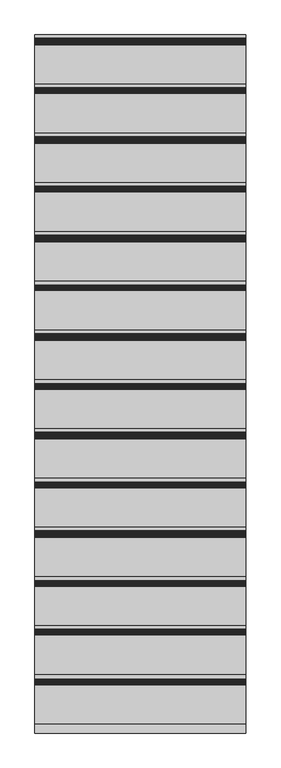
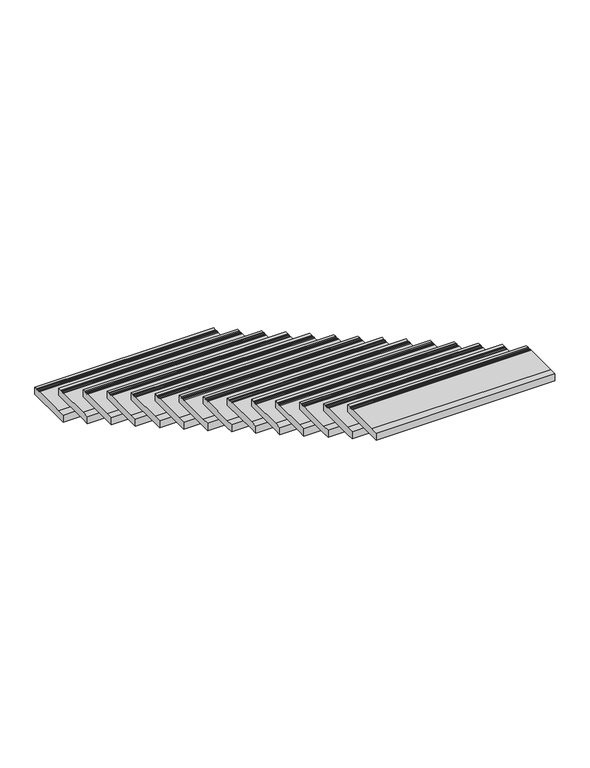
"""IFC4 building model written with IfcOpenShell, lengths in millimetres: stair flight geometry, Giron 30 mm nez de marche 20 mm."""

import ifcopenshell
import ifcopenshell.guid

model = None  # the IFC model being written
_history = None  # IfcOwnerHistory: only IFC2X3 demands one
_inside = {}  # id of a spatial element -> (the spatial element, [elements in it])
_under = {}  # id of a project, library or spatial element -> (it, [spatial elements below it])
_declared = {}  # id of a project -> (the project, [libraries it declares])
_typed = {}  # id of a type object -> (the type object, [elements of that type])
_made_of = {}  # id of a material, layer set ... -> (it, [elements and type objects made of it])


def new_model(schema):
    """Start an empty IFC model of exactly this schema.

    Asked for "IFC4X3", IfcOpenShell would pick the latest addendum, in which some entities
    have other attributes; the version numbers below select the first issue.
    IFC2X3 requires an IfcOwnerHistory on every rooted entity: one is made here for all.
    """
    global model, _history
    if schema == "IFC4X3":
        model = ifcopenshell.file(schema_version=(4, 3, 0, 0))
    else:
        model = ifcopenshell.file(schema=schema)
    _inside.clear()
    _under.clear()
    _declared.clear()
    _typed.clear()
    _made_of.clear()
    _history = None
    if model.schema == "IFC2X3":
        org = make("IfcOrganization", Name="unknown")
        user = make(
            "IfcPersonAndOrganization",
            ThePerson=make("IfcPerson", FamilyName="unknown"),
            TheOrganization=org,
        )
        app = make(
            "IfcApplication",
            ApplicationDeveloper=org,
            Version="unknown",
            ApplicationFullName="unknown",
            ApplicationIdentifier="unknown",
        )
        _history = make(
            "IfcOwnerHistory",
            OwningUser=user,
            OwningApplication=app,
            ChangeAction="ADDED",
            CreationDate=0,
        )
    return model


def make(cls, **values):
    """One entity of the class cls with the attributes given. An attribute that is None is left unset."""
    return model.create_entity(
        cls, **{name: value for name, value in values.items() if value is not None}
    )


def rooted(cls, **values):
    """An entity with a GlobalId (a new one), such as an element, a storey or a relation."""
    return make(cls, GlobalId=ifcopenshell.guid.new(), OwnerHistory=_history, **values)


def si_unit(unit_type, name, prefix=None):
    """IfcSIUnit, for example si_unit("LENGTHUNIT", "METRE", prefix="MILLI")."""
    return make("IfcSIUnit", UnitType=unit_type, Prefix=prefix, Name=name)


def assignment(units):
    """IfcUnitAssignment: the units of a project."""
    return None if units is None else make("IfcUnitAssignment", Units=units)


def point(xyz):
    """IfcCartesianPoint."""
    return None if xyz is None else make("IfcCartesianPoint", Coordinates=xyz)


def direction(xyz):
    """IfcDirection."""
    return None if xyz is None else make("IfcDirection", DirectionRatios=xyz)


def frame(location, z_axis=None, x_axis=None):
    """IfcAxis2Placement3D, a coordinate frame: its origin and axes. An axis left out is left unset."""
    return make(
        "IfcAxis2Placement3D",
        Location=point(location),
        Axis=direction(z_axis),
        RefDirection=direction(x_axis),
    )


def origin():
    """The frame at (0, 0, 0) with its axes left unset."""
    return frame((0.0, 0.0, 0.0))


def place(relative_to, where):
    """IfcLocalPlacement: puts the frame where relative to a parent placement (None: the world)."""
    return make(
        "IfcLocalPlacement", PlacementRelTo=relative_to, RelativePlacement=where
    )


def context(
    kind, dimensions, precision=None, world=None, true_north=None, identifier=None
):
    """IfcGeometricRepresentationContext, for example the 3D "Model" context."""
    return make(
        "IfcGeometricRepresentationContext",
        ContextIdentifier=identifier,
        ContextType=kind,
        CoordinateSpaceDimension=dimensions,
        Precision=precision,
        WorldCoordinateSystem=world,
        TrueNorth=true_north,
    )


def project(units=None, contexts=None):
    """IfcProject with its units and contexts."""
    return rooted(
        "IfcProject",
        Name="project",
        RepresentationContexts=contexts,
        UnitsInContext=assignment(units),
    )


def spatial(cls, under=None, at=None, **own):
    """A site, building, storey or space (cls), placed at a placement, below another one or the project."""
    s = rooted(cls, ObjectPlacement=at, **own)
    if under is not None:
        _under.setdefault(under.id(), (under, []))[1].append(s)
    return s


def polyline(points):
    """IfcPolyline through the points."""
    return make("IfcPolyline", Points=[point(p) for p in points])


def outline(outer, holes=None, kind="AREA"):
    """IfcArbitraryClosedProfileDef: a profile drawn as a closed curve; with holes, ...WithVoids."""
    if holes is None:
        return make("IfcArbitraryClosedProfileDef", ProfileType=kind, OuterCurve=outer)
    return make(
        "IfcArbitraryProfileDefWithVoids",
        ProfileType=kind,
        OuterCurve=outer,
        InnerCurves=holes,
    )


def extrude(swept, where, along, depth):
    """IfcExtrudedAreaSolid: the profile swept, set in the frame where, extruded along a direction by depth."""
    return make(
        "IfcExtrudedAreaSolid",
        SweptArea=swept,
        Position=where,
        ExtrudedDirection=direction(along),
        Depth=depth,
    )


def shape(context_of_items, identifier, shape_type, items):
    """IfcShapeRepresentation: the items that make up one representation, for example the "Body"."""
    return make(
        "IfcShapeRepresentation",
        ContextOfItems=context_of_items,
        RepresentationIdentifier=identifier,
        RepresentationType=shape_type,
        Items=items,
    )


def source(mapping_origin, context_of_items, identifier, shape_type, items):
    """IfcRepresentationMap: a shape defined once, which mapped items show again and again."""
    return make(
        "IfcRepresentationMap",
        MappingOrigin=mapping_origin,
        MappedRepresentation=shape(context_of_items, identifier, shape_type, items),
    )


def transform(
    local_origin,
    x_axis=None,
    y_axis=None,
    z_axis=None,
    scale=None,
    scale2=None,
    scale3=None,
    uniform=True,
):
    """IfcCartesianTransformationOperator3D, or its non-uniform kind. x_axis, y_axis, z_axis: its Axis1, 2, 3."""
    if uniform:
        return make(
            "IfcCartesianTransformationOperator3D",
            Axis1=direction(x_axis),
            Axis2=direction(y_axis),
            LocalOrigin=point(local_origin),
            Scale=scale,
            Axis3=direction(z_axis),
        )
    return make(
        "IfcCartesianTransformationOperator3DnonUniform",
        Axis1=direction(x_axis),
        Axis2=direction(y_axis),
        LocalOrigin=point(local_origin),
        Scale=scale,
        Axis3=direction(z_axis),
        Scale2=scale2,
        Scale3=scale3,
    )


def mapped(mapping_source, mapping_target):
    """IfcMappedItem: shows the shape of a source again, moved by a transform."""
    return make(
        "IfcMappedItem", MappingSource=mapping_source, MappingTarget=mapping_target
    )


def made_of(thing, what):
    """Note that an element or type object is made of a material, layer set ...; save() writes the relation."""
    if what is not None:
        _made_of.setdefault(what.id(), (what, []))[1].append(thing)
    return thing


def element(
    cls,
    number,
    at=None,
    inside=None,
    cuts=None,
    type_object=None,
    material=None,
    context=None,
    identifier="Body",
    shape_type=None,
    held_by="IfcProductDefinitionShape",
    body=None,
    shapes=None,
    **own,
):
    """One element of the class cls, such as IfcWall. Its Tag is "e" and its number.

    at: its placement. inside: the storey or other place that contains it. cuts: it is an
    opening in that element (IfcRelVoidsElement). A single representation is given by context,
    identifier, shape_type and body (its items); several are given by shapes. held_by: the class
    of the entity that holds the representations. save() writes the other relations.
    """
    e = rooted(cls, Tag="e%d" % number, ObjectPlacement=at, **own)
    if body is not None:
        shapes = [shape(context, identifier, shape_type, body)]
    if shapes is not None:
        e.Representation = make(held_by, Representations=shapes)
    if inside is not None:
        _inside.setdefault(inside.id(), (inside, []))[1].append(e)
    if cuts is not None:
        rooted(
            "IfcRelVoidsElement", RelatingBuildingElement=cuts, RelatedOpeningElement=e
        )
    if type_object is not None:
        _typed.setdefault(type_object.id(), (type_object, []))[1].append(e)
    return made_of(e, material)


def aggregate(whole, parts):
    """IfcRelAggregates: a whole, such as a stair, and the parts it consists of."""
    return rooted("IfcRelAggregates", RelatingObject=whole, RelatedObjects=parts)


def save(model, path):
    """Write the relations noted so far, then the file.

    IfcRelAggregates (storeys below a building ...), IfcRelContainedInSpatialStructure (elements
    in a storey), IfcRelDefinesByType, IfcRelAssociatesMaterial and IfcRelDeclares: one each for
    every whole, place, type object, material and project.
    """
    for whole, parts in _under.values():
        aggregate(whole, parts)
    for where, things in _inside.values():
        rooted(
            "IfcRelContainedInSpatialStructure",
            RelatedElements=things,
            RelatingStructure=where,
        )
    for kind, things in _typed.values():
        rooted("IfcRelDefinesByType", RelatedObjects=things, RelatingType=kind)
    for what, things in _made_of.values():
        rooted("IfcRelAssociatesMaterial", RelatedObjects=things, RelatingMaterial=what)
    for by, libraries in _declared.values():
        rooted("IfcRelDeclares", RelatingContext=by, RelatedDefinitions=libraries)
    model.write(path)


def stair_flight_b019b1db(model_context):
    return source(origin(), model_context, "Body", "SweptSolid", [
        extrude(outline(polyline([(5220.0711666, 80.0), (5223.6067006, 76.4644661), (5227.1422345, 80.0), (5230.6777684, 76.4644661), (5234.2133023, 80.0), (5237.7488362, 76.4644661), (5241.2843701, 80.0), (5244.819904, 76.4644661), (5248.3554379, 80.0), (5251.8909718, 76.4644661), (5255.4265057, 80.0), (5275.4265057, 80.0), (5275.4265057, 30.0), (4995.4265057, 30.0), (4945.4265057, 30.0), (4945.4265057, 80.0), (4995.4265057, 80.0), (5220.0711666, 80.0)])), frame((9143.2466393, 0.0, 0.0), z_axis=(1.0, 0.0, 0.0), x_axis=(0.0, 1.0, 0.0)), (0.0, 0.0, 1.0), 1200.0),
        extrude(outline(polyline([(4940.0711666, 240.0), (4943.6067006, 236.4644661), (4947.1422345, 240.0), (4950.6777684, 236.4644661), (4954.2133023, 240.0), (4957.7488362, 236.4644661), (4961.2843701, 240.0), (4964.819904, 236.4644661), (4968.3554379, 240.0), (4971.8909718, 236.4644661), (4975.4265057, 240.0), (4995.4265057, 240.0), (4995.4265057, 190.0), (4715.4265057, 190.0), (4665.4265057, 190.0), (4665.4265057, 240.0), (4715.4265057, 240.0), (4940.0711666, 240.0)])), frame((9143.2466393, 0.0, 0.0), z_axis=(1.0, 0.0, 0.0), x_axis=(0.0, 1.0, 0.0)), (0.0, 0.0, 1.0), 1200.0),
        extrude(outline(polyline([(4660.0711666, 400.0), (4663.6067006, 396.4644661), (4667.1422345, 400.0), (4670.6777684, 396.4644661), (4674.2133023, 400.0), (4677.7488362, 396.4644661), (4681.2843701, 400.0), (4684.819904, 396.4644661), (4688.3554379, 400.0), (4691.8909718, 396.4644661), (4695.4265057, 400.0), (4715.4265057, 400.0), (4715.4265057, 350.0), (4435.4265057, 350.0), (4385.4265057, 350.0), (4385.4265057, 400.0), (4435.4265057, 400.0), (4660.0711666, 400.0)])), frame((9143.2466393, 0.0, 0.0), z_axis=(1.0, 0.0, 0.0), x_axis=(0.0, 1.0, 0.0)), (0.0, 0.0, 1.0), 1200.0),
        extrude(outline(polyline([(4380.0711666, 560.0), (4383.6067006, 556.4644661), (4387.1422345, 560.0), (4390.6777684, 556.4644661), (4394.2133023, 560.0), (4397.7488362, 556.4644661), (4401.2843701, 560.0), (4404.819904, 556.4644661), (4408.3554379, 560.0), (4411.8909718, 556.4644661), (4415.4265057, 560.0), (4435.4265057, 560.0), (4435.4265057, 510.0), (4155.4265057, 510.0), (4105.4265057, 510.0), (4105.4265057, 560.0), (4155.4265057, 560.0), (4380.0711666, 560.0)])), frame((9143.2466393, 0.0, 0.0), z_axis=(1.0, 0.0, 0.0), x_axis=(0.0, 1.0, 0.0)), (0.0, 0.0, 1.0), 1200.0),
        extrude(outline(polyline([(4100.0711666, 720.0), (4103.6067006, 716.4644661), (4107.1422345, 720.0), (4110.6777684, 716.4644661), (4114.2133023, 720.0), (4117.7488362, 716.4644661), (4121.2843701, 720.0), (4124.819904, 716.4644661), (4128.3554379, 720.0), (4131.8909718, 716.4644661), (4135.4265057, 720.0), (4155.4265057, 720.0), (4155.4265057, 670.0), (3875.4265057, 670.0), (3825.4265057, 670.0), (3825.4265057, 720.0), (3875.4265057, 720.0), (4100.0711666, 720.0)])), frame((9143.2466393, 0.0, 0.0), z_axis=(1.0, 0.0, 0.0), x_axis=(0.0, 1.0, 0.0)), (0.0, 0.0, 1.0), 1200.0),
        extrude(outline(polyline([(3820.0711666, 880.0), (3823.6067006, 876.4644661), (3827.1422345, 880.0), (3830.6777684, 876.4644661), (3834.2133023, 880.0), (3837.7488362, 876.4644661), (3841.2843701, 880.0), (3844.819904, 876.4644661), (3848.3554379, 880.0), (3851.8909718, 876.4644661), (3855.4265057, 880.0), (3875.4265057, 880.0), (3875.4265057, 830.0), (3595.4265057, 830.0), (3545.4265057, 830.0), (3545.4265057, 880.0), (3595.4265057, 880.0), (3820.0711666, 880.0)])), frame((9143.2466393, 0.0, 0.0), z_axis=(1.0, 0.0, 0.0), x_axis=(0.0, 1.0, 0.0)), (0.0, 0.0, 1.0), 1200.0),
        extrude(outline(polyline([(3540.0711666, 1040.0), (3543.6067006, 1036.4644661), (3547.1422345, 1040.0), (3550.6777684, 1036.4644661), (3554.2133023, 1040.0), (3557.7488362, 1036.4644661), (3561.2843701, 1040.0), (3564.819904, 1036.4644661), (3568.3554379, 1040.0), (3571.8909718, 1036.4644661), (3575.4265057, 1040.0), (3595.4265057, 1040.0), (3595.4265057, 990.0), (3315.4265057, 990.0), (3265.4265057, 990.0), (3265.4265057, 1040.0), (3315.4265057, 1040.0), (3540.0711666, 1040.0)])), frame((9143.2466393, 0.0, 0.0), z_axis=(1.0, 0.0, 0.0), x_axis=(0.0, 1.0, 0.0)), (0.0, 0.0, 1.0), 1200.0),
        extrude(outline(polyline([(3260.0711666, 1200.0), (3263.6067006, 1196.4644661), (3267.1422345, 1200.0), (3270.6777684, 1196.4644661), (3274.2133023, 1200.0), (3277.7488362, 1196.4644661), (3281.2843701, 1200.0), (3284.819904, 1196.4644661), (3288.3554379, 1200.0), (3291.8909718, 1196.4644661), (3295.4265057, 1200.0), (3315.4265057, 1200.0), (3315.4265057, 1150.0), (3035.4265057, 1150.0), (2985.4265057, 1150.0), (2985.4265057, 1200.0), (3035.4265057, 1200.0), (3260.0711666, 1200.0)])), frame((9143.2466393, 0.0, 0.0), z_axis=(1.0, 0.0, 0.0), x_axis=(0.0, 1.0, 0.0)), (0.0, 0.0, 1.0), 1200.0),
        extrude(outline(polyline([(2980.0711666, 1360.0), (2983.6067006, 1356.4644661), (2987.1422345, 1360.0), (2990.6777684, 1356.4644661), (2994.2133023, 1360.0), (2997.7488362, 1356.4644661), (3001.2843701, 1360.0), (3004.819904, 1356.4644661), (3008.3554379, 1360.0), (3011.8909718, 1356.4644661), (3015.4265057, 1360.0), (3035.4265057, 1360.0), (3035.4265057, 1310.0), (2755.4265057, 1310.0), (2705.4265057, 1310.0), (2705.4265057, 1360.0), (2755.4265057, 1360.0), (2980.0711666, 1360.0)])), frame((9143.2466393, 0.0, 0.0), z_axis=(1.0, 0.0, 0.0), x_axis=(0.0, 1.0, 0.0)), (0.0, 0.0, 1.0), 1200.0),
        extrude(outline(polyline([(2700.0711666, 1520.0), (2703.6067006, 1516.4644661), (2707.1422345, 1520.0), (2710.6777684, 1516.4644661), (2714.2133023, 1520.0), (2717.7488362, 1516.4644661), (2721.2843701, 1520.0), (2724.819904, 1516.4644661), (2728.3554379, 1520.0), (2731.8909718, 1516.4644661), (2735.4265057, 1520.0), (2755.4265057, 1520.0), (2755.4265057, 1470.0), (2475.4265057, 1470.0), (2425.4265057, 1470.0), (2425.4265057, 1520.0), (2475.4265057, 1520.0), (2700.0711666, 1520.0)])), frame((9143.2466393, 0.0, 0.0), z_axis=(1.0, 0.0, 0.0), x_axis=(0.0, 1.0, 0.0)), (0.0, 0.0, 1.0), 1200.0),
        extrude(outline(polyline([(2420.0711666, 1680.0), (2423.6067006, 1676.4644661), (2427.1422345, 1680.0), (2430.6777684, 1676.4644661), (2434.2133023, 1680.0), (2437.7488362, 1676.4644661), (2441.2843701, 1680.0), (2444.819904, 1676.4644661), (2448.3554379, 1680.0), (2451.8909718, 1676.4644661), (2455.4265057, 1680.0), (2475.4265057, 1680.0), (2475.4265057, 1630.0), (2195.4265057, 1630.0), (2145.4265057, 1630.0), (2145.4265057, 1680.0), (2195.4265057, 1680.0), (2420.0711666, 1680.0)])), frame((9143.2466393, 0.0, 0.0), z_axis=(1.0, 0.0, 0.0), x_axis=(0.0, 1.0, 0.0)), (0.0, 0.0, 1.0), 1200.0),
        extrude(outline(polyline([(2140.0711666, 1840.0), (2143.6067006, 1836.4644661), (2147.1422345, 1840.0), (2150.6777684, 1836.4644661), (2154.2133023, 1840.0), (2157.7488362, 1836.4644661), (2161.2843701, 1840.0), (2164.819904, 1836.4644661), (2168.3554379, 1840.0), (2171.8909718, 1836.4644661), (2175.4265057, 1840.0), (2195.4265057, 1840.0), (2195.4265057, 1790.0), (1915.4265057, 1790.0), (1865.4265057, 1790.0), (1865.4265057, 1840.0), (1915.4265057, 1840.0), (2140.0711666, 1840.0)])), frame((9143.2466393, 0.0, 0.0), z_axis=(1.0, 0.0, 0.0), x_axis=(0.0, 1.0, 0.0)), (0.0, 0.0, 1.0), 1200.0),
        extrude(outline(polyline([(1860.0711666, 2000.0), (1863.6067006, 1996.4644661), (1867.1422345, 2000.0), (1870.6777684, 1996.4644661), (1874.2133023, 2000.0), (1877.7488362, 1996.4644661), (1881.2843701, 2000.0), (1884.819904, 1996.4644661), (1888.3554379, 2000.0), (1891.8909718, 1996.4644661), (1895.4265057, 2000.0), (1915.4265057, 2000.0), (1915.4265057, 1950.0), (1635.4265057, 1950.0), (1585.4265057, 1950.0), (1585.4265057, 2000.0), (1635.4265057, 2000.0), (1860.0711666, 2000.0)])), frame((9143.2466393, 0.0, 0.0), z_axis=(1.0, 0.0, 0.0), x_axis=(0.0, 1.0, 0.0)), (0.0, 0.0, 1.0), 1200.0),
        extrude(outline(polyline([(1580.0711666, 2160.0), (1583.6067006, 2156.4644661), (1587.1422345, 2160.0), (1590.6777684, 2156.4644661), (1594.2133023, 2160.0), (1597.7488362, 2156.4644661), (1601.2843701, 2160.0), (1604.819904, 2156.4644661), (1608.3554379, 2160.0), (1611.8909718, 2156.4644661), (1615.4265057, 2160.0), (1635.4265057, 2160.0), (1635.4265057, 2110.0), (1355.4265057, 2110.0), (1305.4265057, 2110.0), (1305.4265057, 2160.0), (1355.4265057, 2160.0), (1580.0711666, 2160.0)])), frame((9143.2466393, 0.0, 0.0), z_axis=(1.0, 0.0, 0.0), x_axis=(0.0, 1.0, 0.0)), (0.0, 0.0, 1.0), 1200.0),
    ])


if __name__ == "__main__":
    model = new_model("IFC4")
    model_context = context("Model", 3, world=origin())
    ifc_project = project(units=[si_unit("LENGTHUNIT", "METRE", prefix="MILLI")], contexts=[model_context])
    site = spatial("IfcSite", under=ifc_project)
    building = spatial("IfcBuilding", under=site)
    placement = place(None, origin())
    stair_flight_shape = stair_flight_b019b1db(model_context)
    element("IfcStairFlight", 1, ObjectType="Giron 30 mm nez de marche 20 mm", at=placement, inside=building, context=model_context, shape_type="MappedRepresentation", body=[
        mapped(stair_flight_shape, transform((0.0, 0.0, 0.0), x_axis=(1.0, 0.0, 0.0), y_axis=(0.0, 1.0, 0.0), z_axis=(0.0, 0.0, 1.0))),
    ])
    save(model, "model.ifc")
